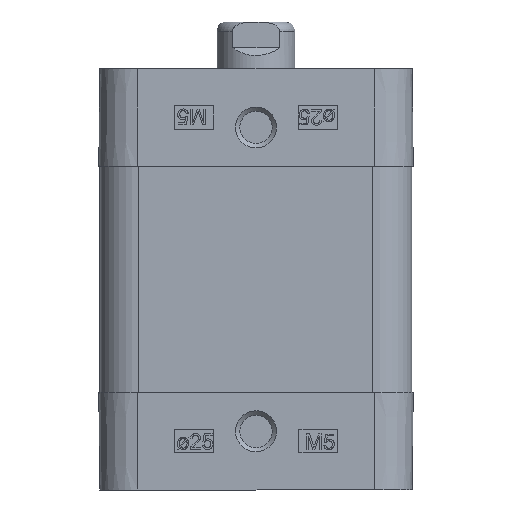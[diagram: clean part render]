
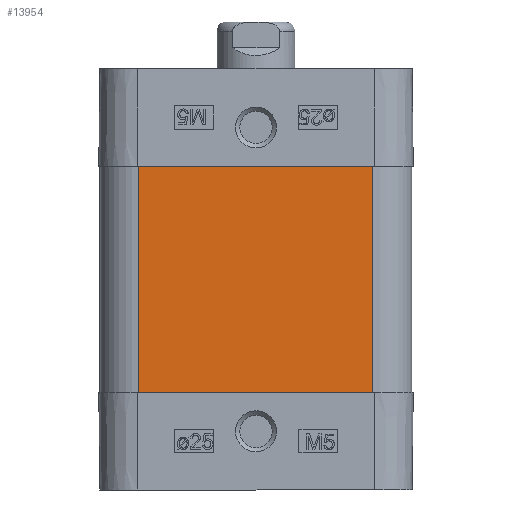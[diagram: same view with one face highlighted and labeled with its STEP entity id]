
A CAD part, left-side view. The second image highlights one B-rep face of the part: STEP entity #13954.
In plain terms, the highlighted planar face has unit normal (-1, 0, 0).
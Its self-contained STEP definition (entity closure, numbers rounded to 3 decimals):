
#773=PLANE('',#14827);
#1544=LINE('',#21197,#2424);
#1572=LINE('',#21310,#2452);
#1654=LINE('',#21530,#2534);
#1655=LINE('',#21532,#2535);
#2424=VECTOR('',#17067,1000.);
#2452=VECTOR('',#17153,1000.);
#2534=VECTOR('',#17399,1000.);
#2535=VECTOR('',#17402,1000.);
#5299=ORIENTED_EDGE('',*,*,#6643,.T.);
#5300=ORIENTED_EDGE('',*,*,#6809,.T.);
#5301=ORIENTED_EDGE('',*,*,#6810,.T.);
#5302=ORIENTED_EDGE('',*,*,#6699,.F.);
#6643=EDGE_CURVE('',#7697,#7698,#1544,.T.);
#6699=EDGE_CURVE('',#7697,#7753,#1572,.T.);
#6809=EDGE_CURVE('',#7698,#7808,#1654,.T.);
#6810=EDGE_CURVE('',#7808,#7753,#1655,.T.);
#7697=VERTEX_POINT('',#21198);
#7698=VERTEX_POINT('',#21199);
#7753=VERTEX_POINT('',#21311);
#7808=VERTEX_POINT('',#21529);
#8898=EDGE_LOOP('',(#5299,#5300,#5301,#5302));
#9638=FACE_BOUND('',#8898,.T.);
#13954=ADVANCED_FACE('',(#9638),#773,.T.);
#14827=AXIS2_PLACEMENT_3D('',#21531,#17400,#17401);
#17067=DIRECTION('',(0.,0.,-1.));
#17153=DIRECTION('',(0.,-1.,0.));
#17399=DIRECTION('',(0.,-1.,0.));
#17400=DIRECTION('',(-1.,0.,0.));
#17401=DIRECTION('',(0.,0.,1.));
#17402=DIRECTION('',(0.,0.,1.));
#21197=CARTESIAN_POINT('',(-20.,19.5,15.));
#21198=CARTESIAN_POINT('',(-20.,19.5,15.));
#21199=CARTESIAN_POINT('',(-20.,19.5,-15.));
#21310=CARTESIAN_POINT('',(-20.,9.5,15.));
#21311=CARTESIAN_POINT('',(-20.,-9.5,15.));
#21529=CARTESIAN_POINT('',(-20.,-9.5,-15.));
#21530=CARTESIAN_POINT('',(-20.,9.5,-15.));
#21531=CARTESIAN_POINT('',(-20.,0.,15.));
#21532=CARTESIAN_POINT('',(-20.,-9.5,-15.));
